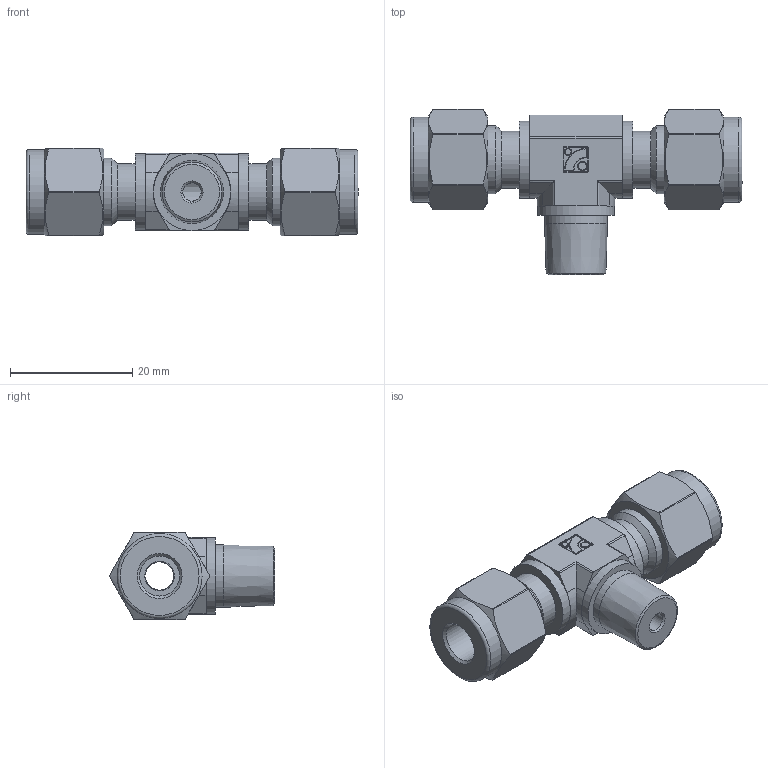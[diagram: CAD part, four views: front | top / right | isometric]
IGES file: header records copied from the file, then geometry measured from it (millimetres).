
Global section: file name: No Iges File Name specified; native system: Autodesk Inventor 2012; preprocessor: AutoDesk Inventor Iges Exporter R2012; author: 硅己绕,, ; organization: 11; date: 20150815.155123; units: millimetre
Bounding box: 54.29 x 27 x 14.3 mm (x, y, z)
Volume: 7285.9 mm3; surface area: 4494.2 mm2
Topology: 1 solids, 1 shells, 149 faces, 340 edges, 204 vertices
Faces by surface type: cylinder 50, plane 47, revolution 30, torus 10, cone 8, sphere 4
Full cylindrical faces by diameter (mm): 1.08 x1, 1.44 x1, 9.3 x2, 10.28 x1, 11.112 x2, 12.6 x3, 13.9 x2
